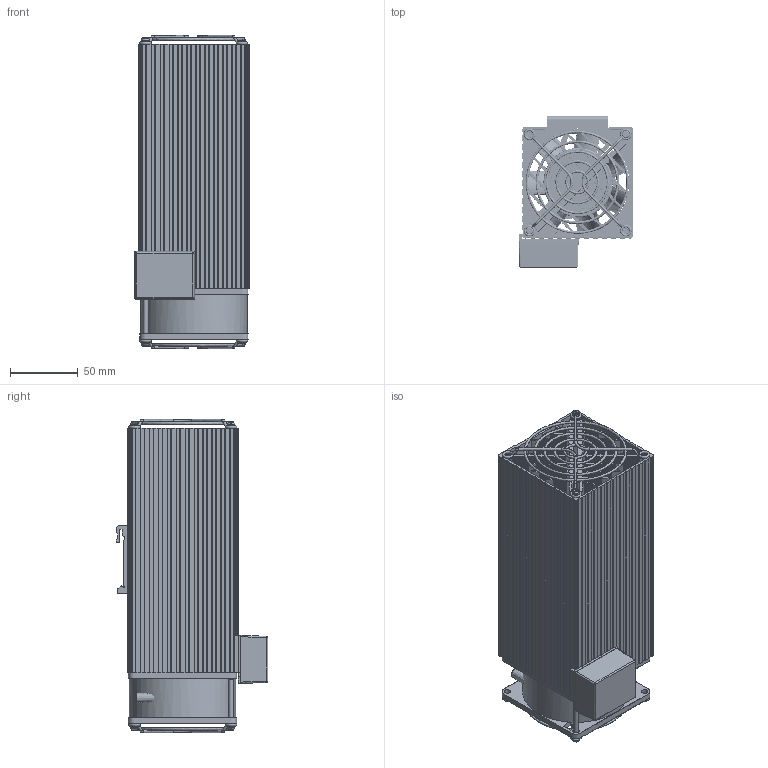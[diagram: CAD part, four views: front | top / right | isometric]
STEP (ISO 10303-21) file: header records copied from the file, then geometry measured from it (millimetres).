
FILE_DESCRIPTION(/* description */ (''),/* implementation_level */ '2;1');
FILE_NAME(/* name */ 'FSHT75~1',/* time_stamp */ '2023-01-24T17:01:05+01:00',/* author */ (''),/* organization */ (''),/* preprocessor_version */ 'ST-DEVELOPER v16.5',/* originating_system */ '',/* authorisation */ '');
FILE_SCHEMA (('AUTOMOTIVE_DESIGN'));
Products named in the file (1): Document
Bounding box: 84.45 x 111.7 x 230.7 mm (x, y, z)
Volume: 434185.7 mm3; surface area: 490664 mm2
Topology: 43 solids, 135 shells, 2464 faces, 7280 edges, 4935 vertices
Faces by surface type: plane 2248, bspline 216
Entity records: 87727 total; most frequent: CARTESIAN_POINT 41824, ORIENTED_EDGE 14224, EDGE_CURVE 7280, VERTEX_POINT 4935, B_SPLINE_CURVE_WITH_KNOTS 3736, EDGE_LOOP 2506, ADVANCED_FACE 2464, FACE_OUTER_BOUND 2464
